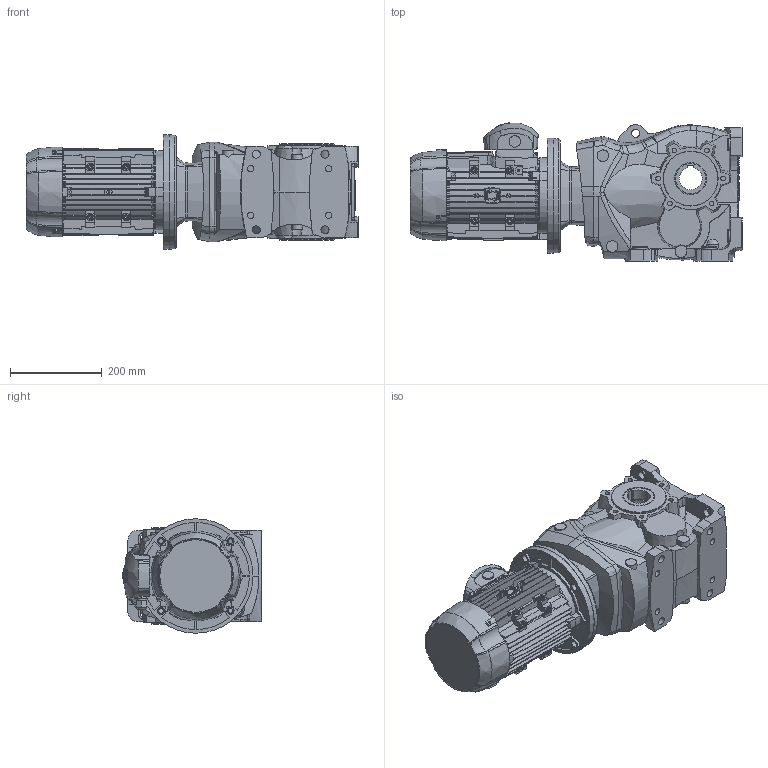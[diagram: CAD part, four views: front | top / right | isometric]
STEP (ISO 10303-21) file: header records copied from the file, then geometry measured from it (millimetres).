
FILE_DESCRIPTION((''),'2;1');
FILE_NAME('C:\xampp\htdocs\motive\source_step\enduro7.stp','2021-12-01T15:27:21',('apache'),(''),'Autodesk Inventor 2013','Autodesk Inventor 2013','');
FILE_SCHEMA(('CONFIG_CONTROL_DESIGN'));
Length unit declared in the file: millimetre
Products named in the file (12): enduro7; HOUEN7; ICVEN7; IFL100112EN7; OSHEN7; TCVEN7; M100; BODY100; B5100; SH100; TBOX90_100; FCV100
Assembly tree (11 placements, depth 3):
  enduro7
    HOUEN7
    ICVEN7
    IFL100112EN7
    OSHEN7
    TCVEN7
    M100
      BODY100
      B5100
      SH100
      TBOX90_100
      FCV100
Bounding box: 724.55 x 301.86 x 250 mm (x, y, z)
Volume: 22612275.8 mm3; surface area: 1714378.8 mm2
Topology: 10 solids, 10 shells, 2929 faces, 8085 edges, 5352 vertices
Faces by surface type: plane 1162, bspline 706, cylinder 592, cone 283, torus 184, sphere 2
Full cylindrical faces by diameter (mm): 2.5 x4, 4.2 x11, 5 x4, 5.4 x3, 6 x3, 6.8 x13, 8 x6, 9 x3, 10 x1, 10.2 x16, 11 x12, 13.8 x1, 14 x4, 15 x7, 17.5 x8, 20 x1, 24 x1, 25 x1, 27 x1, 28 x1, 30 x2, 47 x1, 50 x1, 52 x1, 58 x1, 62 x2, 65 x1, 70 x2, 110 x2, 120 x2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
Entity records: 132714 total; most frequent: CARTESIAN_POINT 62099, ORIENTED_EDGE 15732, DIRECTION 12700, EDGE_CURVE 7866, VERTEX_POINT 5302, AXIS2_PLACEMENT_3D 4707, EDGE_LOOP 3338, VECTOR 3286
